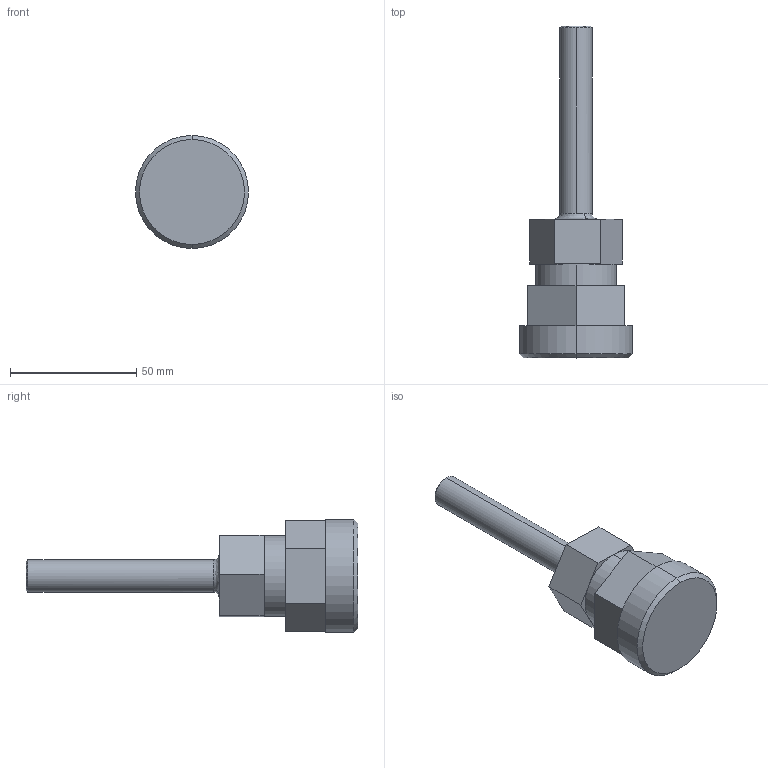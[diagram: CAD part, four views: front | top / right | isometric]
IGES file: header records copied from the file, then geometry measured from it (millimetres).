
Start section: SolidWorks IGES file using analytic representation for surfaces
Global section: file name: S:\Product Visuals\REVISED-60L-TOP-MOUNT-FITTINGS\IGS\top-straight-outlet-only\tubeout\08-tube-out-with-top-mount-adapter.IGS; native system: SolidWorks 2012; preprocessor: SolidWorks 2012; author: rachel.dressel; date: 121127.140808; units: inch
Bounding box: 44.7 x 131.24 x 44.7 mm (x, y, z)
Volume: 71710.4 mm3; surface area: 12843.4 mm2
Topology: 1 solids, 1 shells, 30 faces, 68 edges, 44 vertices
Faces by surface type: plane 18, revolution 10, bspline 2
